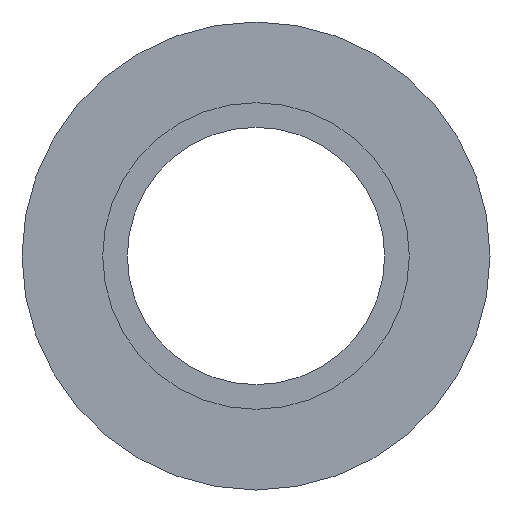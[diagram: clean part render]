
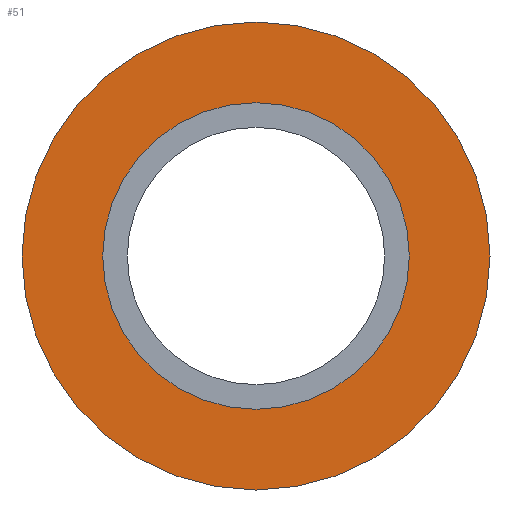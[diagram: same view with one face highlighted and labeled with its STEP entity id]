
A CAD part, left-side view. The second image highlights one B-rep face of the part: STEP entity #51.
In plain terms, the highlighted planar face has unit normal (-1, 0, 0).
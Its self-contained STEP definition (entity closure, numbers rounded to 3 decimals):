
#36=PLANE('',#216);
#51=ADVANCED_FACE('',(#76,#77),#36,.F.);
#76=FACE_BOUND('',#106,.T.);
#77=FACE_BOUND('',#107,.T.);
#106=EDGE_LOOP('',(#136));
#107=EDGE_LOOP('',(#137));
#136=ORIENTED_EDGE('',*,*,#178,.F.);
#137=ORIENTED_EDGE('',*,*,#177,.T.);
#162=VERTEX_POINT('',#315);
#163=VERTEX_POINT('',#318);
#177=EDGE_CURVE('',#162,#162,#192,.T.);
#178=EDGE_CURVE('',#163,#163,#193,.T.);
#192=CIRCLE('',#213,20.);
#193=CIRCLE('',#215,13.1);
#213=AXIS2_PLACEMENT_3D('',#314,#258,#259);
#215=AXIS2_PLACEMENT_3D('',#317,#262,#263);
#216=AXIS2_PLACEMENT_3D('',#319,#264,#265);
#258=DIRECTION('',(-1.,0.,0.));
#259=DIRECTION('',(0.,0.,1.));
#262=DIRECTION('',(-1.,0.,0.));
#263=DIRECTION('',(0.,0.,1.));
#264=DIRECTION('',(1.,0.,0.));
#265=DIRECTION('',(0.,0.,-1.));
#314=CARTESIAN_POINT('',(0.,0.,0.));
#315=CARTESIAN_POINT('',(0.,0.,20.));
#317=CARTESIAN_POINT('',(0.,0.,0.));
#318=CARTESIAN_POINT('',(0.,0.,13.1));
#319=CARTESIAN_POINT('',(0.,20.,0.));
